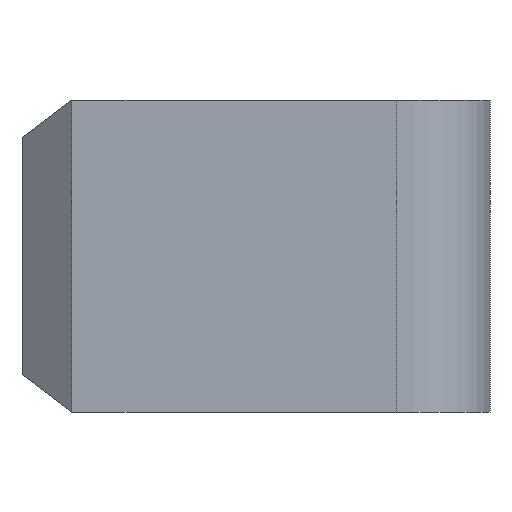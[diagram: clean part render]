
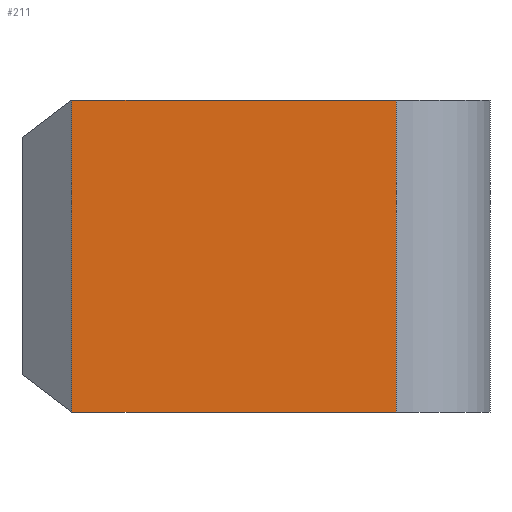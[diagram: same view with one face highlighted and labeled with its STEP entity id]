
A CAD part, front view. The second image highlights one B-rep face of the part: STEP entity #211.
In plain terms, the highlighted planar face has unit normal (0, -1, 0).
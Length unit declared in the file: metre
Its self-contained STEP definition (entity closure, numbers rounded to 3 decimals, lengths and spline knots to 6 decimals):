
#24=ORIENTED_EDGE('',*,*,#76,.T.);
#25=ORIENTED_EDGE('',*,*,#77,.T.);
#26=ORIENTED_EDGE('',*,*,#78,.F.);
#27=ORIENTED_EDGE('',*,*,#79,.F.);
#76=EDGE_CURVE('',#102,#103,#120,.T.);
#77=EDGE_CURVE('',#103,#104,#121,.T.);
#78=EDGE_CURVE('',#105,#104,#122,.T.);
#79=EDGE_CURVE('',#102,#105,#123,.T.);
#102=VERTEX_POINT('',#331);
#103=VERTEX_POINT('',#332);
#104=VERTEX_POINT('',#334);
#105=VERTEX_POINT('',#336);
#120=LINE('',#330,#138);
#121=LINE('',#333,#139);
#122=LINE('',#335,#140);
#123=LINE('',#337,#141);
#138=VECTOR('',#266,1.);
#139=VECTOR('',#267,1.);
#140=VECTOR('',#268,1.);
#141=VECTOR('',#269,1.);
#156=EDGE_LOOP('',(#24,#25,#26,#27));
#178=FACE_BOUND('',#156,.T.);
#200=PLANE('',#239);
#211=ADVANCED_FACE('',(#178),#200,.T.);
#239=AXIS2_PLACEMENT_3D('',#329,#264,#265);
#264=DIRECTION('',(0.,-1.,0.));
#265=DIRECTION('',(1.,0.,0.));
#266=DIRECTION('',(-1.,0.,0.));
#267=DIRECTION('',(0.,0.,-1.));
#268=DIRECTION('',(-1.,0.,0.));
#269=DIRECTION('',(0.,0.,-1.));
#329=CARTESIAN_POINT('',(0.,-0.0075,0.025));
#330=CARTESIAN_POINT('',(0.,-0.0075,0.025));
#331=CARTESIAN_POINT('',(0.015,-0.0075,0.025));
#332=CARTESIAN_POINT('',(-0.011,-0.0075,0.025));
#333=CARTESIAN_POINT('',(-0.011,-0.0075,0.));
#334=CARTESIAN_POINT('',(-0.011,-0.0075,0.));
#335=CARTESIAN_POINT('',(0.,-0.0075,0.));
#336=CARTESIAN_POINT('',(0.015,-0.0075,0.));
#337=CARTESIAN_POINT('',(0.015,-0.0075,0.025));
